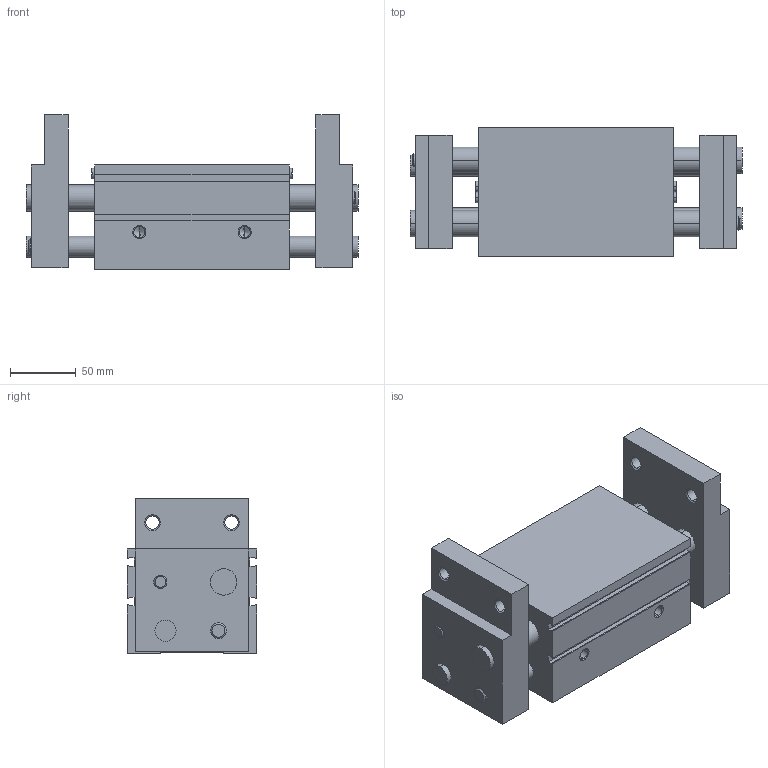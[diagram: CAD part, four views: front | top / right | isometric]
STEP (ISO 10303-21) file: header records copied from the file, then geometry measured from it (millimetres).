
FILE_DESCRIPTION (( 'STEP AP214' ), '1' );
FILE_NAME ('SHL40-100D(敕磁188-桲羲288).STEP', '2024-05-16T02:06:11', ( '' ), ( '' ), 'SwSTEP 2.0', 'SolidWorks 2018', '' );
FILE_SCHEMA (( 'AUTOMOTIVE_DESIGN' ));
Length unit declared in the file: millimetre
Products named in the file (3): SHL40-100D(敕磁188-桲羲288); SHL40-100D-B; SHL40-100D-A
Assembly tree (3 placements, depth 2):
  SHL40-100D(敕磁188-桲羲288)
    SHL40-100D-A
    SHL40-100D-B  x2
Bounding box: 252 x 98 x 117 mm (x, y, z)
Volume: 1633888.6 mm3; surface area: 229912.8 mm2
Topology: 3 solids, 3 shells, 241 faces, 580 edges, 360 vertices
Faces by surface type: plane 99, cylinder 86, cone 56
Entity records: 5774 total; most frequent: DIRECTION 1040, CARTESIAN_POINT 959, ORIENTED_EDGE 924, EDGE_CURVE 462, AXIS2_PLACEMENT_3D 377, VERTEX_POINT 296, LINE 286, VECTOR 286
